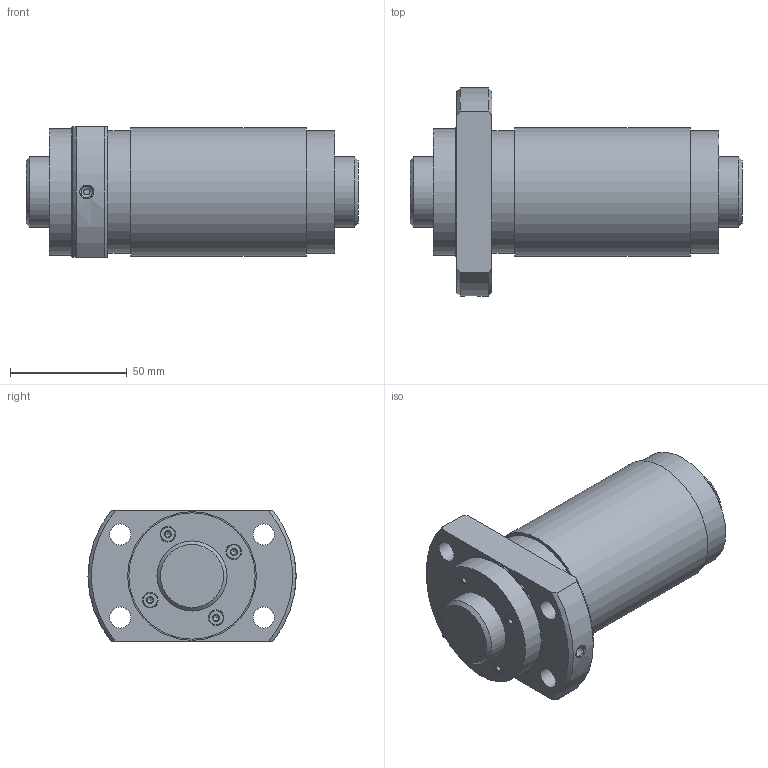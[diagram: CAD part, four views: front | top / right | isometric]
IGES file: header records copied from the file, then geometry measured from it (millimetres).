
Start section: Data from Parasolid IGES Translator 26.0.171, Copyright(c) 2006 Siemens PLM Software. All Rights Reserved.
Global section: file name: WGF3060-3G1+142LC3_N0_13_0_0.igs; native system: By Siemens PLM Incorporated; preprocessor: XPlus GENERIC/IGES 26.0.171; author: Noname; organization: Noname; date: 20250116.062647; units: millimetre
Bounding box: 142 x 89 x 56 mm (x, y, z)
Surface area: 59386.3 mm2 (no closed solid volume)
Topology: 0 solids, 0 shells, 65 faces, 272 edges, 220 vertices
Faces by surface type: revolution 46, extrusion 19
